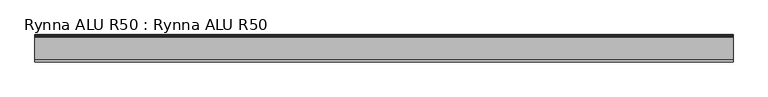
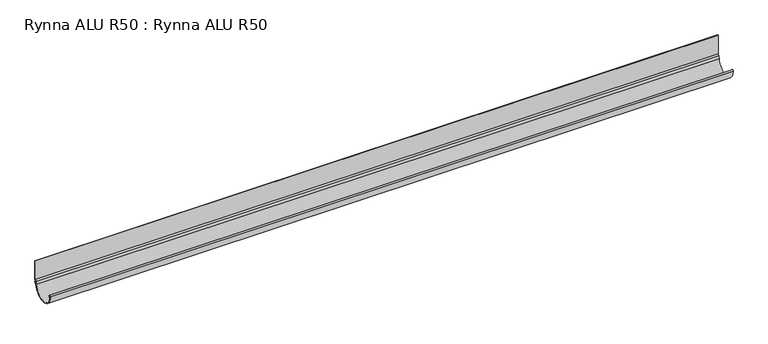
"""IFC4 building model written with IfcOpenShell, lengths in millimetres: proxy geometry, Rynna ALU R50 : Rynna ALU R50."""

from ifc_helpers import new_model, si_unit, point, frame, frame_2d, origin, place, context, project, spatial, polyline, circle_curve, trimmed, segment, composite_curve, outline, extrude, source, transform, mapped, element, save


def rynna_alu_r50_rynna_alu_r50_4e946e94(model_context):
    return source(origin(), model_context, "Body", "SweptSolid", [
        extrude(outline(composite_curve([segment(polyline([(0.6978396, 0.0), (0.6978396, -39.5252625), (-1.8149767, -41.8701356), (-2.328284, -45.5225054), (0.9565767, -44.1281649), (0.1767814, -46.0765907), (-2.6292486, -47.6619658)]), True, "CONTINUOUS"), segment(trimmed(circle_curve(frame_2d((-27.3646611, -44.302303)), 24.9625312), [point((-2.6292486, -47.6619658))], [point((-52.3271923, -44.302303))], False, "CARTESIAN"), True, "CONTINUOUS"), segment(trimmed(circle_curve(frame_2d((-50.3771937, -44.3000011)), 1.95), [point((-52.3271923, -44.302303))], [point((-50.8512717, -46.1914952))], False, "CARTESIAN"), True, "CONTINUOUS"), segment(trimmed(circle_curve(frame_2d((-27.3646611, -44.302303)), 23.5624686), [point((-50.8512717, -46.1914952))], [point((-3.9370468, -46.8196069))], True, "CARTESIAN"), True, "CONTINUOUS"), segment(polyline([(-3.9370468, -46.8196069), (-3.0707013, -41.065916), (-0.7021617, -38.7702547), (-0.7021617, 0.0), (0.6978396, 0.0)]), True, "CONTINUOUS")], self_intersect=False)), frame((-678.0362932, 0.0, 0.0), z_axis=(1.0, 0.0, 0.0), x_axis=(0.0, 1.0, 0.0)), (0.0, 0.0, 1.0), 1356.0725865),
    ])


if __name__ == "__main__":
    model = new_model("IFC4")
    model_context = context("Model", 3, world=origin())
    ifc_project = project(units=[si_unit("LENGTHUNIT", "METRE", prefix="MILLI")], contexts=[model_context])
    site = spatial("IfcSite", under=ifc_project)
    building = spatial("IfcBuilding", under=site)
    placement = place(None, origin())
    rynna_alu_r50_rynna_alu_r50_shape = rynna_alu_r50_rynna_alu_r50_4e946e94(model_context)
    element("IfcBuildingElementProxy", 1, Name="Rynna ALU R50 : Rynna ALU R50", ObjectType="Rynna ALU R50 : Rynna ALU R50", at=placement, inside=building, context=model_context, shape_type="MappedRepresentation", body=[
        mapped(rynna_alu_r50_rynna_alu_r50_shape, transform((0.0, 0.0, 0.0), x_axis=(1.0, 0.0, 0.0), y_axis=(0.0, 1.0, 0.0), z_axis=(0.0, 0.0, 1.0))),
    ])
    save(model, "model.ifc")
